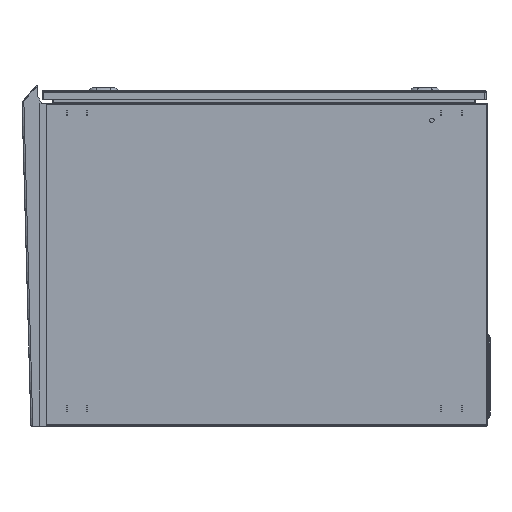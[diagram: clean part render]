
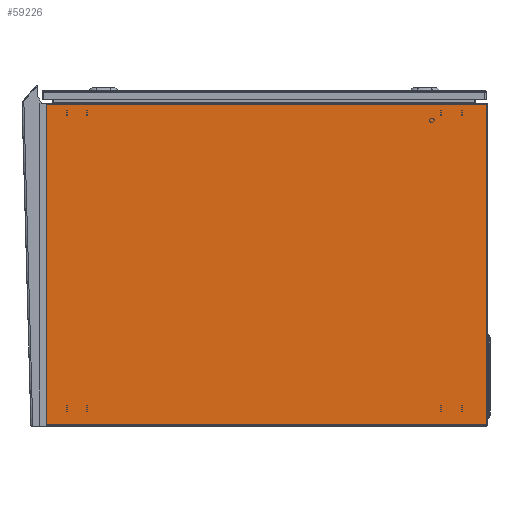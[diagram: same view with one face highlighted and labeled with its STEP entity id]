
A CAD part, left-side view. The second image highlights one B-rep face of the part: STEP entity #59226.
In plain terms, the highlighted planar face has unit normal (-1, 0, 0).
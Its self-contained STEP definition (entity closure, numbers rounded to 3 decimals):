
#7 = VECTOR ( 'NONE', #33866, 1000. ) ;
#447 = AXIS2_PLACEMENT_3D ( 'NONE', #58498, #8707, #46317 ) ;
#1376 = ORIENTED_EDGE ( 'NONE', *, *, #32108, .T. ) ;
#2279 = FACE_OUTER_BOUND ( 'NONE', #6118, .T. ) ;
#2639 = LINE ( 'NONE', #12674, #9151 ) ;
#2856 = CARTESIAN_POINT ( 'NONE',  ( -300., 400., 574.5 ) ) ;
#3568 = EDGE_CURVE ( 'NONE', #69810, #4450, #29761, .T. ) ;
#4450 = VERTEX_POINT ( 'NONE', #21722 ) ;
#4944 = ORIENTED_EDGE ( 'NONE', *, *, #32026, .T. ) ;
#6118 = EDGE_LOOP ( 'NONE', ( #4944, #47533, #1376, #27328 ) ) ;
#8707 = DIRECTION ( 'NONE',  ( 1., 0., 0. ) ) ;
#9091 = LINE ( 'NONE', #68917, #61166 ) ;
#9151 = VECTOR ( 'NONE', #40613, 1000. ) ;
#12674 = CARTESIAN_POINT ( 'NONE',  ( -300., -397.5, 1.5 ) ) ;
#13251 = DIRECTION ( 'NONE',  ( 0., -1., 0. ) ) ;
#21722 = CARTESIAN_POINT ( 'NONE',  ( -300., -397.5, 574.5 ) ) ;
#24854 = VECTOR ( 'NONE', #13251, 1000. ) ;
#27328 = ORIENTED_EDGE ( 'NONE', *, *, #3568, .F. ) ;
#27402 = VERTEX_POINT ( 'NONE', #31485 ) ;
#28489 = LINE ( 'NONE', #34209, #7 ) ;
#29761 = LINE ( 'NONE', #2856, #24854 ) ;
#31485 = CARTESIAN_POINT ( 'NONE',  ( -300., 397.5, 2.35 ) ) ;
#31650 = CARTESIAN_POINT ( 'NONE',  ( -300., -397.5, 2.35 ) ) ;
#32026 = EDGE_CURVE ( 'NONE', #69810, #27402, #28489, .T. ) ;
#32108 = EDGE_CURVE ( 'NONE', #59338, #4450, #2639, .T. ) ;
#33866 = DIRECTION ( 'NONE',  ( 0., 0., -1. ) ) ;
#34209 = CARTESIAN_POINT ( 'NONE',  ( -300., 397.5, 1.5 ) ) ;
#36318 = PLANE ( 'NONE',  #447 ) ;
#40613 = DIRECTION ( 'NONE',  ( 0., 0., 1. ) ) ;
#42385 = DIRECTION ( 'NONE',  ( 0., -1., 0. ) ) ;
#46317 = DIRECTION ( 'NONE',  ( 0., 0., -1. ) ) ;
#47533 = ORIENTED_EDGE ( 'NONE', *, *, #53581, .T. ) ;
#53581 = EDGE_CURVE ( 'NONE', #27402, #59338, #9091, .T. ) ;
#58498 = CARTESIAN_POINT ( 'NONE',  ( -300., -400., 1.5 ) ) ;
#59226 = ADVANCED_FACE ( 'NONE', ( #2279 ), #36318, .F. ) ;
#59338 = VERTEX_POINT ( 'NONE', #31650 ) ;
#61166 = VECTOR ( 'NONE', #42385, 1000. ) ;
#64662 = CARTESIAN_POINT ( 'NONE',  ( -300., 397.5, 574.5 ) ) ;
#68917 = CARTESIAN_POINT ( 'NONE',  ( -300., -400., 2.35 ) ) ;
#69810 = VERTEX_POINT ( 'NONE', #64662 ) ;
